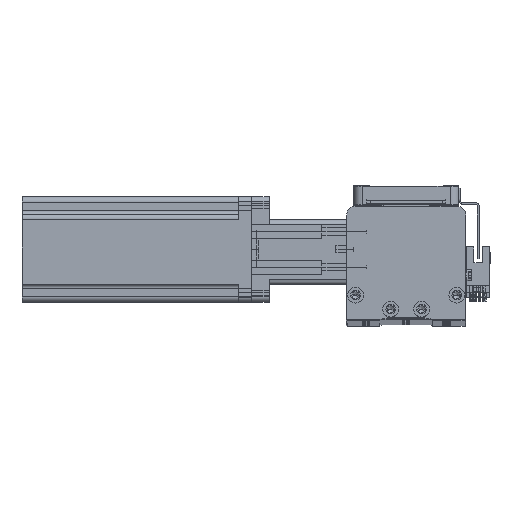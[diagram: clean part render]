
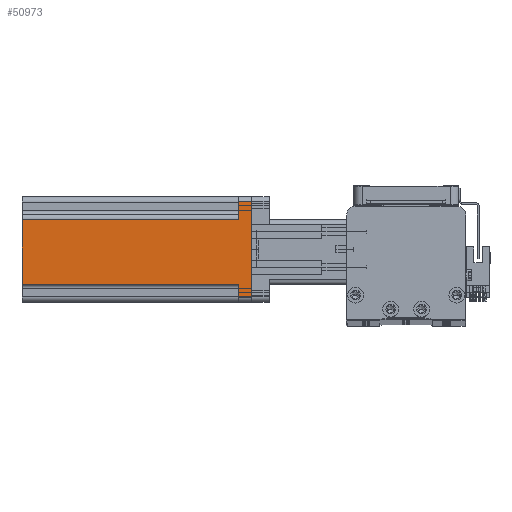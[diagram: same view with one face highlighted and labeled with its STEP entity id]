
A CAD part, top view. The second image highlights one B-rep face of the part: STEP entity #50973.
In plain terms, the highlighted planar face has unit normal (0, 0, 1) as drawn and (-1, 0, 0) by its records, which use the part's own axes.
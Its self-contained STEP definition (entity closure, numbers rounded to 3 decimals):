
#488 = LINE ( 'NONE', #50359, #23983 ) ;
#526 = VERTEX_POINT ( 'NONE', #15971 ) ;
#568 = ORIENTED_EDGE ( 'NONE', *, *, #47718, .F. ) ;
#684 = DIRECTION ( 'NONE',  ( 0., 1., 0. ) ) ;
#849 = CARTESIAN_POINT ( 'NONE',  ( -30., -17., 130.7 ) ) ;
#2662 = ORIENTED_EDGE ( 'NONE', *, *, #34457, .F. ) ;
#3661 = CARTESIAN_POINT ( 'NONE',  ( -30., 27., 0. ) ) ;
#6291 = EDGE_CURVE ( 'NONE', #22581, #47347, #14755, .T. ) ;
#7333 = LINE ( 'NONE', #20250, #26921 ) ;
#7421 = VECTOR ( 'NONE', #50987, 1000. ) ;
#11140 = CARTESIAN_POINT ( 'NONE',  ( -30., -30., 7.5 ) ) ;
#11425 = CARTESIAN_POINT ( 'NONE',  ( -30., 20., 7.5 ) ) ;
#11547 = CARTESIAN_POINT ( 'NONE',  ( -30., -30., 130.7 ) ) ;
#11613 = VECTOR ( 'NONE', #15387, 1000. ) ;
#11844 = DIRECTION ( 'NONE',  ( 0., 0., 1. ) ) ;
#12289 = CARTESIAN_POINT ( 'NONE',  ( -30., 20., 7.5 ) ) ;
#12377 = EDGE_CURVE ( 'NONE', #47347, #41559, #51552, .T. ) ;
#12544 = DIRECTION ( 'NONE',  ( 0., 0., -1. ) ) ;
#13423 = VECTOR ( 'NONE', #12544, 1000. ) ;
#14194 = VERTEX_POINT ( 'NONE', #39264 ) ;
#14755 = LINE ( 'NONE', #45681, #13423 ) ;
#15387 = DIRECTION ( 'NONE',  ( 0., -1., 0. ) ) ;
#15786 = DIRECTION ( 'NONE',  ( 0., 0., -1. ) ) ;
#15971 = CARTESIAN_POINT ( 'NONE',  ( -30., -17., 7.5 ) ) ;
#16968 = CARTESIAN_POINT ( 'NONE',  ( -30., -27., 130.7 ) ) ;
#17619 = ORIENTED_EDGE ( 'NONE', *, *, #6291, .T. ) ;
#17945 = CARTESIAN_POINT ( 'NONE',  ( -30., -30., 0. ) ) ;
#19783 = PLANE ( 'NONE',  #39290 ) ;
#20250 = CARTESIAN_POINT ( 'NONE',  ( -30., -17., 130.7 ) ) ;
#21172 = DIRECTION ( 'NONE',  ( 0., 0., 1. ) ) ;
#22581 = VERTEX_POINT ( 'NONE', #38284 ) ;
#23983 = VECTOR ( 'NONE', #684, 1000. ) ;
#25070 = ORIENTED_EDGE ( 'NONE', *, *, #38102, .F. ) ;
#25160 = LINE ( 'NONE', #48461, #33535 ) ;
#25377 = FACE_OUTER_BOUND ( 'NONE', #47372, .T. ) ;
#26921 = VECTOR ( 'NONE', #11844, 1000. ) ;
#27830 = EDGE_CURVE ( 'NONE', #41222, #22581, #488, .T. ) ;
#32018 = DIRECTION ( 'NONE',  ( 0., -1., 0. ) ) ;
#33067 = VECTOR ( 'NONE', #21172, 1000. ) ;
#33535 = VECTOR ( 'NONE', #32018, 1000. ) ;
#34457 = EDGE_CURVE ( 'NONE', #14194, #35176, #25160, .T. ) ;
#35176 = VERTEX_POINT ( 'NONE', #849 ) ;
#35307 = CARTESIAN_POINT ( 'NONE',  ( -30., -27., 0. ) ) ;
#38102 = EDGE_CURVE ( 'NONE', #41222, #14194, #40960, .T. ) ;
#38284 = CARTESIAN_POINT ( 'NONE',  ( -30., 27., 7.5 ) ) ;
#39264 = CARTESIAN_POINT ( 'NONE',  ( -30., 20., 130.7 ) ) ;
#39290 = AXIS2_PLACEMENT_3D ( 'NONE', #11547, #40557, #15786 ) ;
#39457 = EDGE_CURVE ( 'NONE', #41559, #51904, #45332, .T. ) ;
#39667 = VECTOR ( 'NONE', #44578, 1000. ) ;
#39749 = ORIENTED_EDGE ( 'NONE', *, *, #45618, .T. ) ;
#40557 = DIRECTION ( 'NONE',  ( 1., 0., 0. ) ) ;
#40960 = LINE ( 'NONE', #11425, #39667 ) ;
#41222 = VERTEX_POINT ( 'NONE', #12289 ) ;
#41559 = VERTEX_POINT ( 'NONE', #35307 ) ;
#43163 = CARTESIAN_POINT ( 'NONE',  ( -30., -27., 7.5 ) ) ;
#44578 = DIRECTION ( 'NONE',  ( 0., 0., 1. ) ) ;
#44677 = LINE ( 'NONE', #11140, #11613 ) ;
#44710 = ORIENTED_EDGE ( 'NONE', *, *, #27830, .T. ) ;
#45332 = LINE ( 'NONE', #16968, #33067 ) ;
#45618 = EDGE_CURVE ( 'NONE', #526, #35176, #7333, .T. ) ;
#45681 = CARTESIAN_POINT ( 'NONE',  ( -30., 27., 130.7 ) ) ;
#47347 = VERTEX_POINT ( 'NONE', #3661 ) ;
#47372 = EDGE_LOOP ( 'NONE', ( #568, #39749, #2662, #25070, #44710, #17619, #50408, #47451 ) ) ;
#47451 = ORIENTED_EDGE ( 'NONE', *, *, #39457, .T. ) ;
#47718 = EDGE_CURVE ( 'NONE', #526, #51904, #44677, .T. ) ;
#48461 = CARTESIAN_POINT ( 'NONE',  ( -30., -30., 130.7 ) ) ;
#50359 = CARTESIAN_POINT ( 'NONE',  ( -30., 30., 7.5 ) ) ;
#50408 = ORIENTED_EDGE ( 'NONE', *, *, #12377, .T. ) ;
#50973 = ADVANCED_FACE ( 'NONE', ( #25377 ), #19783, .F. ) ;
#50987 = DIRECTION ( 'NONE',  ( 0., -1., 0. ) ) ;
#51552 = LINE ( 'NONE', #17945, #7421 ) ;
#51904 = VERTEX_POINT ( 'NONE', #43163 ) ;
